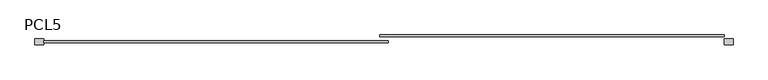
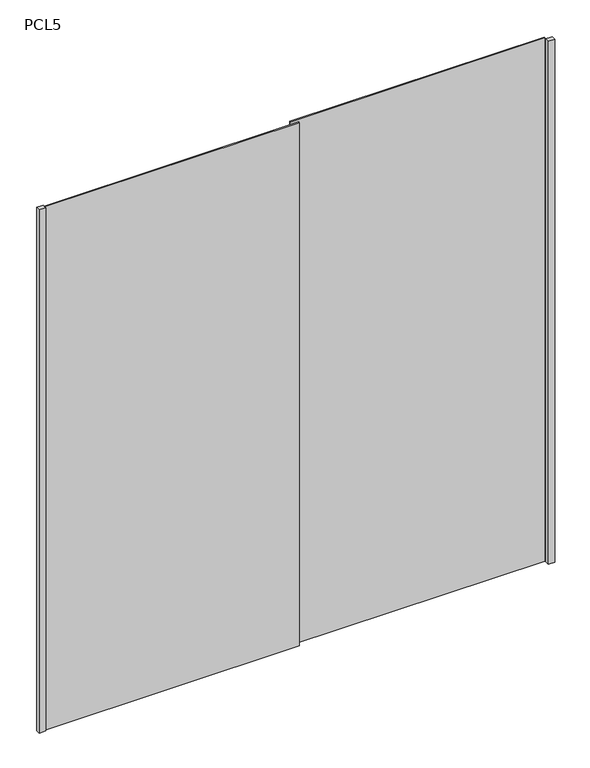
"""IFC4 building model written with IfcOpenShell, lengths in millimetres: furniture geometry, Puerta Closet corre 2 hojas : PCL5."""

import ifcopenshell
import ifcopenshell.guid

model = None  # the IFC model being written
_history = None  # IfcOwnerHistory: only IFC2X3 demands one
_inside = {}  # id of a spatial element -> (the spatial element, [elements in it])
_under = {}  # id of a project, library or spatial element -> (it, [spatial elements below it])
_declared = {}  # id of a project -> (the project, [libraries it declares])
_typed = {}  # id of a type object -> (the type object, [elements of that type])
_made_of = {}  # id of a material, layer set ... -> (it, [elements and type objects made of it])


def new_model(schema):
    """Start an empty IFC model of exactly this schema.

    Asked for "IFC4X3", IfcOpenShell would pick the latest addendum, in which some entities
    have other attributes; the version numbers below select the first issue.
    IFC2X3 requires an IfcOwnerHistory on every rooted entity: one is made here for all.
    """
    global model, _history
    if schema == "IFC4X3":
        model = ifcopenshell.file(schema_version=(4, 3, 0, 0))
    else:
        model = ifcopenshell.file(schema=schema)
    _inside.clear()
    _under.clear()
    _declared.clear()
    _typed.clear()
    _made_of.clear()
    _history = None
    if model.schema == "IFC2X3":
        org = make("IfcOrganization", Name="unknown")
        user = make(
            "IfcPersonAndOrganization",
            ThePerson=make("IfcPerson", FamilyName="unknown"),
            TheOrganization=org,
        )
        app = make(
            "IfcApplication",
            ApplicationDeveloper=org,
            Version="unknown",
            ApplicationFullName="unknown",
            ApplicationIdentifier="unknown",
        )
        _history = make(
            "IfcOwnerHistory",
            OwningUser=user,
            OwningApplication=app,
            ChangeAction="ADDED",
            CreationDate=0,
        )
    return model


def make(cls, **values):
    """One entity of the class cls with the attributes given. An attribute that is None is left unset."""
    return model.create_entity(
        cls, **{name: value for name, value in values.items() if value is not None}
    )


def rooted(cls, **values):
    """An entity with a GlobalId (a new one), such as an element, a storey or a relation."""
    return make(cls, GlobalId=ifcopenshell.guid.new(), OwnerHistory=_history, **values)


def si_unit(unit_type, name, prefix=None):
    """IfcSIUnit, for example si_unit("LENGTHUNIT", "METRE", prefix="MILLI")."""
    return make("IfcSIUnit", UnitType=unit_type, Prefix=prefix, Name=name)


def assignment(units):
    """IfcUnitAssignment: the units of a project."""
    return None if units is None else make("IfcUnitAssignment", Units=units)


def point(xyz):
    """IfcCartesianPoint."""
    return None if xyz is None else make("IfcCartesianPoint", Coordinates=xyz)


def direction(xyz):
    """IfcDirection."""
    return None if xyz is None else make("IfcDirection", DirectionRatios=xyz)


def frame(location, z_axis=None, x_axis=None):
    """IfcAxis2Placement3D, a coordinate frame: its origin and axes. An axis left out is left unset."""
    return make(
        "IfcAxis2Placement3D",
        Location=point(location),
        Axis=direction(z_axis),
        RefDirection=direction(x_axis),
    )


def origin():
    """The frame at (0, 0, 0) with its axes left unset."""
    return frame((0.0, 0.0, 0.0))


def origin_with_axes():
    """The frame at (0, 0, 0) with the z axis (0, 0, 1) and the x axis (1, 0, 0) written out."""
    return frame((0.0, 0.0, 0.0), z_axis=(0.0, 0.0, 1.0), x_axis=(1.0, 0.0, 0.0))


def place(relative_to, where):
    """IfcLocalPlacement: puts the frame where relative to a parent placement (None: the world)."""
    return make(
        "IfcLocalPlacement", PlacementRelTo=relative_to, RelativePlacement=where
    )


def context(
    kind, dimensions, precision=None, world=None, true_north=None, identifier=None
):
    """IfcGeometricRepresentationContext, for example the 3D "Model" context."""
    return make(
        "IfcGeometricRepresentationContext",
        ContextIdentifier=identifier,
        ContextType=kind,
        CoordinateSpaceDimension=dimensions,
        Precision=precision,
        WorldCoordinateSystem=world,
        TrueNorth=true_north,
    )


def project(units=None, contexts=None):
    """IfcProject with its units and contexts."""
    return rooted(
        "IfcProject",
        Name="project",
        RepresentationContexts=contexts,
        UnitsInContext=assignment(units),
    )


def spatial(cls, under=None, at=None, **own):
    """A site, building, storey or space (cls), placed at a placement, below another one or the project."""
    s = rooted(cls, ObjectPlacement=at, **own)
    if under is not None:
        _under.setdefault(under.id(), (under, []))[1].append(s)
    return s


def polyline(points):
    """IfcPolyline through the points."""
    return make("IfcPolyline", Points=[point(p) for p in points])


def outline(outer, holes=None, kind="AREA"):
    """IfcArbitraryClosedProfileDef: a profile drawn as a closed curve; with holes, ...WithVoids."""
    if holes is None:
        return make("IfcArbitraryClosedProfileDef", ProfileType=kind, OuterCurve=outer)
    return make(
        "IfcArbitraryProfileDefWithVoids",
        ProfileType=kind,
        OuterCurve=outer,
        InnerCurves=holes,
    )


def extrude(swept, where, along, depth):
    """IfcExtrudedAreaSolid: the profile swept, set in the frame where, extruded along a direction by depth."""
    return make(
        "IfcExtrudedAreaSolid",
        SweptArea=swept,
        Position=where,
        ExtrudedDirection=direction(along),
        Depth=depth,
    )


def shape(context_of_items, identifier, shape_type, items):
    """IfcShapeRepresentation: the items that make up one representation, for example the "Body"."""
    return make(
        "IfcShapeRepresentation",
        ContextOfItems=context_of_items,
        RepresentationIdentifier=identifier,
        RepresentationType=shape_type,
        Items=items,
    )


def source(mapping_origin, context_of_items, identifier, shape_type, items):
    """IfcRepresentationMap: a shape defined once, which mapped items show again and again."""
    return make(
        "IfcRepresentationMap",
        MappingOrigin=mapping_origin,
        MappedRepresentation=shape(context_of_items, identifier, shape_type, items),
    )


def transform(
    local_origin,
    x_axis=None,
    y_axis=None,
    z_axis=None,
    scale=None,
    scale2=None,
    scale3=None,
    uniform=True,
):
    """IfcCartesianTransformationOperator3D, or its non-uniform kind. x_axis, y_axis, z_axis: its Axis1, 2, 3."""
    if uniform:
        return make(
            "IfcCartesianTransformationOperator3D",
            Axis1=direction(x_axis),
            Axis2=direction(y_axis),
            LocalOrigin=point(local_origin),
            Scale=scale,
            Axis3=direction(z_axis),
        )
    return make(
        "IfcCartesianTransformationOperator3DnonUniform",
        Axis1=direction(x_axis),
        Axis2=direction(y_axis),
        LocalOrigin=point(local_origin),
        Scale=scale,
        Axis3=direction(z_axis),
        Scale2=scale2,
        Scale3=scale3,
    )


def mapped(mapping_source, mapping_target):
    """IfcMappedItem: shows the shape of a source again, moved by a transform."""
    return make(
        "IfcMappedItem", MappingSource=mapping_source, MappingTarget=mapping_target
    )


def made_of(thing, what):
    """Note that an element or type object is made of a material, layer set ...; save() writes the relation."""
    if what is not None:
        _made_of.setdefault(what.id(), (what, []))[1].append(thing)
    return thing


def element(
    cls,
    number,
    at=None,
    inside=None,
    cuts=None,
    type_object=None,
    material=None,
    context=None,
    identifier="Body",
    shape_type=None,
    held_by="IfcProductDefinitionShape",
    body=None,
    shapes=None,
    **own,
):
    """One element of the class cls, such as IfcWall. Its Tag is "e" and its number.

    at: its placement. inside: the storey or other place that contains it. cuts: it is an
    opening in that element (IfcRelVoidsElement). A single representation is given by context,
    identifier, shape_type and body (its items); several are given by shapes. held_by: the class
    of the entity that holds the representations. save() writes the other relations.
    """
    e = rooted(cls, Tag="e%d" % number, ObjectPlacement=at, **own)
    if body is not None:
        shapes = [shape(context, identifier, shape_type, body)]
    if shapes is not None:
        e.Representation = make(held_by, Representations=shapes)
    if inside is not None:
        _inside.setdefault(inside.id(), (inside, []))[1].append(e)
    if cuts is not None:
        rooted(
            "IfcRelVoidsElement", RelatingBuildingElement=cuts, RelatedOpeningElement=e
        )
    if type_object is not None:
        _typed.setdefault(type_object.id(), (type_object, []))[1].append(e)
    return made_of(e, material)


def aggregate(whole, parts):
    """IfcRelAggregates: a whole, such as a stair, and the parts it consists of."""
    return rooted("IfcRelAggregates", RelatingObject=whole, RelatedObjects=parts)


def save(model, path):
    """Write the relations noted so far, then the file.

    IfcRelAggregates (storeys below a building ...), IfcRelContainedInSpatialStructure (elements
    in a storey), IfcRelDefinesByType, IfcRelAssociatesMaterial and IfcRelDeclares: one each for
    every whole, place, type object, material and project.
    """
    for whole, parts in _under.values():
        aggregate(whole, parts)
    for where, things in _inside.values():
        rooted(
            "IfcRelContainedInSpatialStructure",
            RelatedElements=things,
            RelatingStructure=where,
        )
    for kind, things in _typed.values():
        rooted("IfcRelDefinesByType", RelatedObjects=things, RelatingType=kind)
    for what, things in _made_of.values():
        rooted("IfcRelAssociatesMaterial", RelatedObjects=things, RelatingMaterial=what)
    for by, libraries in _declared.values():
        rooted("IfcRelDeclares", RelatingContext=by, RelatedDefinitions=libraries)
    model.write(path)


def pcl5_094a4529(model_context):
    return source(origin(), model_context, "Body", "SweptSolid", [
        extrude(outline(polyline([(635.0, 80.0), (605.0, 80.0), (605.0, 100.0), (635.0, 100.0), (635.0, 80.0)])), origin_with_axes(), (0.0, 0.0, 1.0), 2520.0),
        extrude(outline(polyline([(605.0, 106.6666667), (-555.0, 106.6666667), (-555.0, 113.3333333), (605.0, 113.3333333), (605.0, 106.6666667)])), origin_with_axes(), (0.0, 0.0, 1.0), 2520.0),
        extrude(outline(polyline([(-525.0, 86.6666667), (-1685.0, 86.6666667), (-1685.0, 93.3333333), (-525.0, 93.3333333), (-525.0, 86.6666667)])), origin_with_axes(), (0.0, 0.0, 1.0), 2520.0),
        extrude(outline(polyline([(-1715.0, 80.0), (-1715.0, 100.0), (-1685.0, 100.0), (-1685.0, 80.0), (-1715.0, 80.0)])), origin_with_axes(), (0.0, 0.0, 1.0), 2520.0),
    ])


if __name__ == "__main__":
    model = new_model("IFC4")
    model_context = context("Model", 3, world=origin())
    ifc_project = project(units=[si_unit("LENGTHUNIT", "METRE", prefix="MILLI")], contexts=[model_context])
    site = spatial("IfcSite", under=ifc_project)
    building = spatial("IfcBuilding", under=site)
    placement = place(None, origin())
    pcl5_shape = pcl5_094a4529(model_context)
    element("IfcFurniture", 1, ObjectType="Puerta Closet corre 2 hojas : PCL5", at=placement, inside=building, context=model_context, shape_type="MappedRepresentation", body=[
        mapped(pcl5_shape, transform((0.0, 0.0, 0.0), x_axis=(1.0, 0.0, 0.0), y_axis=(0.0, 1.0, 0.0), z_axis=(0.0, 0.0, 1.0))),
    ])
    save(model, "model.ifc")
